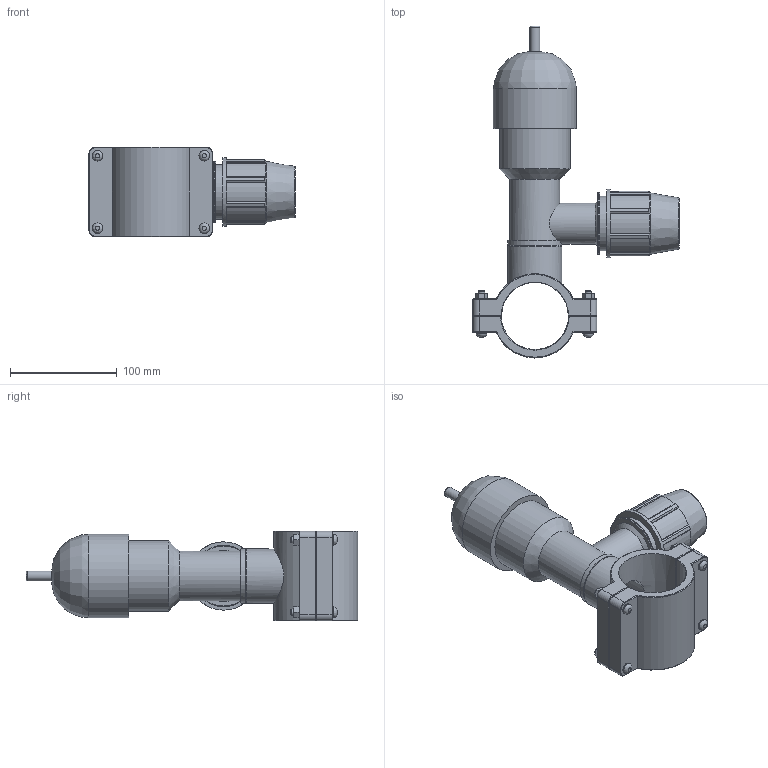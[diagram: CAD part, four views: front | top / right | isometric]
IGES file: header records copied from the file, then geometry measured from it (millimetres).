
Global section: file name: 186800063032.ipt; native system: Autodesk Inventor 2015; preprocessor: unknown; author: KIM; date: 20170618.094012; units: millimetre
Bounding box: 193 x 310.88 x 84 mm (x, y, z)
Volume: 883847.5 mm3; surface area: 157426.2 mm2
Topology: 1 solids, 1 shells, 224 faces, 562 edges, 364 vertices
Faces by surface type: plane 133, cylinder 43, cone 29, revolution 19
Full cylindrical faces by diameter (mm): 6 x4, 9.333 x1, 10 x8, 38.4 x1, 38.952 x1, 46.742 x1, 50.638 x2, 51.2 x1, 57.6 x1, 64 x1, 66.218 x1, 77.904 x1
